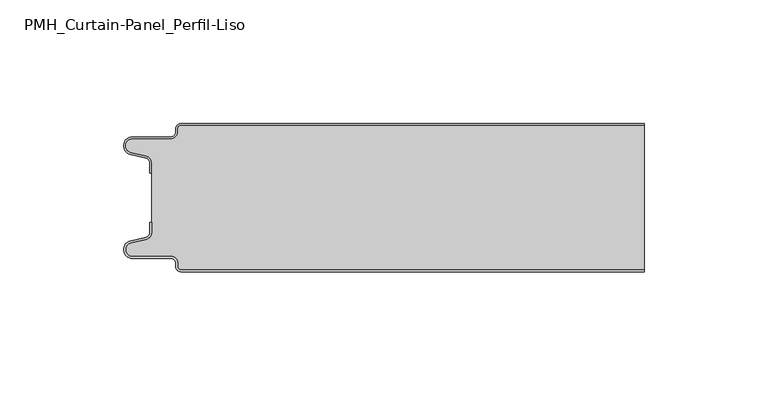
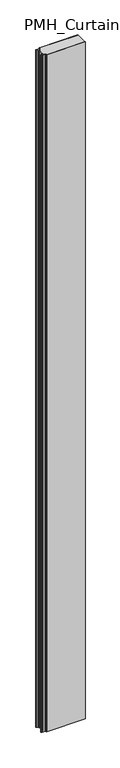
"""IFC4 building model written with IfcOpenShell, lengths in millimetres: plate geometry, PMH_Curtain-Panel_Perfil-Liso : ACH_PMH_Panel-Acústico-Sectorización_60M."""

import ifcopenshell
import ifcopenshell.guid

model = None  # the IFC model being written
_history = None  # IfcOwnerHistory: only IFC2X3 demands one
_inside = {}  # id of a spatial element -> (the spatial element, [elements in it])
_under = {}  # id of a project, library or spatial element -> (it, [spatial elements below it])
_declared = {}  # id of a project -> (the project, [libraries it declares])
_typed = {}  # id of a type object -> (the type object, [elements of that type])
_made_of = {}  # id of a material, layer set ... -> (it, [elements and type objects made of it])


def new_model(schema):
    """Start an empty IFC model of exactly this schema.

    Asked for "IFC4X3", IfcOpenShell would pick the latest addendum, in which some entities
    have other attributes; the version numbers below select the first issue.
    IFC2X3 requires an IfcOwnerHistory on every rooted entity: one is made here for all.
    """
    global model, _history
    if schema == "IFC4X3":
        model = ifcopenshell.file(schema_version=(4, 3, 0, 0))
    else:
        model = ifcopenshell.file(schema=schema)
    _inside.clear()
    _under.clear()
    _declared.clear()
    _typed.clear()
    _made_of.clear()
    _history = None
    if model.schema == "IFC2X3":
        org = make("IfcOrganization", Name="unknown")
        user = make(
            "IfcPersonAndOrganization",
            ThePerson=make("IfcPerson", FamilyName="unknown"),
            TheOrganization=org,
        )
        app = make(
            "IfcApplication",
            ApplicationDeveloper=org,
            Version="unknown",
            ApplicationFullName="unknown",
            ApplicationIdentifier="unknown",
        )
        _history = make(
            "IfcOwnerHistory",
            OwningUser=user,
            OwningApplication=app,
            ChangeAction="ADDED",
            CreationDate=0,
        )
    return model


def make(cls, **values):
    """One entity of the class cls with the attributes given. An attribute that is None is left unset."""
    return model.create_entity(
        cls, **{name: value for name, value in values.items() if value is not None}
    )


def rooted(cls, **values):
    """An entity with a GlobalId (a new one), such as an element, a storey or a relation."""
    return make(cls, GlobalId=ifcopenshell.guid.new(), OwnerHistory=_history, **values)


def si_unit(unit_type, name, prefix=None):
    """IfcSIUnit, for example si_unit("LENGTHUNIT", "METRE", prefix="MILLI")."""
    return make("IfcSIUnit", UnitType=unit_type, Prefix=prefix, Name=name)


def assignment(units):
    """IfcUnitAssignment: the units of a project."""
    return None if units is None else make("IfcUnitAssignment", Units=units)


def point(xyz):
    """IfcCartesianPoint."""
    return None if xyz is None else make("IfcCartesianPoint", Coordinates=xyz)


def direction(xyz):
    """IfcDirection."""
    return None if xyz is None else make("IfcDirection", DirectionRatios=xyz)


def frame(location, z_axis=None, x_axis=None):
    """IfcAxis2Placement3D, a coordinate frame: its origin and axes. An axis left out is left unset."""
    return make(
        "IfcAxis2Placement3D",
        Location=point(location),
        Axis=direction(z_axis),
        RefDirection=direction(x_axis),
    )


def frame_2d(location, x_axis=None):
    """IfcAxis2Placement2D, a coordinate frame in the plane: its origin and x axis."""
    return make(
        "IfcAxis2Placement2D", Location=point(location), RefDirection=direction(x_axis)
    )


def origin():
    """The frame at (0, 0, 0) with its axes left unset."""
    return frame((0.0, 0.0, 0.0))


def origin_with_axes():
    """The frame at (0, 0, 0) with the z axis (0, 0, 1) and the x axis (1, 0, 0) written out."""
    return frame((0.0, 0.0, 0.0), z_axis=(0.0, 0.0, 1.0), x_axis=(1.0, 0.0, 0.0))


def place(relative_to, where):
    """IfcLocalPlacement: puts the frame where relative to a parent placement (None: the world)."""
    return make(
        "IfcLocalPlacement", PlacementRelTo=relative_to, RelativePlacement=where
    )


def context(
    kind, dimensions, precision=None, world=None, true_north=None, identifier=None
):
    """IfcGeometricRepresentationContext, for example the 3D "Model" context."""
    return make(
        "IfcGeometricRepresentationContext",
        ContextIdentifier=identifier,
        ContextType=kind,
        CoordinateSpaceDimension=dimensions,
        Precision=precision,
        WorldCoordinateSystem=world,
        TrueNorth=true_north,
    )


def project(units=None, contexts=None):
    """IfcProject with its units and contexts."""
    return rooted(
        "IfcProject",
        Name="project",
        RepresentationContexts=contexts,
        UnitsInContext=assignment(units),
    )


def spatial(cls, under=None, at=None, **own):
    """A site, building, storey or space (cls), placed at a placement, below another one or the project."""
    s = rooted(cls, ObjectPlacement=at, **own)
    if under is not None:
        _under.setdefault(under.id(), (under, []))[1].append(s)
    return s


def polyline(points):
    """IfcPolyline through the points."""
    return make("IfcPolyline", Points=[point(p) for p in points])


def circle_curve(where, radius):
    """IfcCircle in the frame where."""
    return make("IfcCircle", Position=where, Radius=radius)


def trimmed(basis, trim1, trim2, sense, master):
    """IfcTrimmedCurve: the piece of a basis curve between two trims."""
    return make(
        "IfcTrimmedCurve",
        BasisCurve=basis,
        Trim1=trim1,
        Trim2=trim2,
        SenseAgreement=sense,
        MasterRepresentation=master,
    )


def segment(curve, same_sense, transition):
    """IfcCompositeCurveSegment."""
    return make(
        "IfcCompositeCurveSegment",
        Transition=transition,
        SameSense=same_sense,
        ParentCurve=curve,
    )


def composite_curve(segments, self_intersect=None):
    """IfcCompositeCurve: segments joined end to end."""
    return make("IfcCompositeCurve", Segments=segments, SelfIntersect=self_intersect)


def outline(outer, holes=None, kind="AREA"):
    """IfcArbitraryClosedProfileDef: a profile drawn as a closed curve; with holes, ...WithVoids."""
    if holes is None:
        return make("IfcArbitraryClosedProfileDef", ProfileType=kind, OuterCurve=outer)
    return make(
        "IfcArbitraryProfileDefWithVoids",
        ProfileType=kind,
        OuterCurve=outer,
        InnerCurves=holes,
    )


def extrude(swept, where, along, depth):
    """IfcExtrudedAreaSolid: the profile swept, set in the frame where, extruded along a direction by depth."""
    return make(
        "IfcExtrudedAreaSolid",
        SweptArea=swept,
        Position=where,
        ExtrudedDirection=direction(along),
        Depth=depth,
    )


def shape(context_of_items, identifier, shape_type, items):
    """IfcShapeRepresentation: the items that make up one representation, for example the "Body"."""
    return make(
        "IfcShapeRepresentation",
        ContextOfItems=context_of_items,
        RepresentationIdentifier=identifier,
        RepresentationType=shape_type,
        Items=items,
    )


def source(mapping_origin, context_of_items, identifier, shape_type, items):
    """IfcRepresentationMap: a shape defined once, which mapped items show again and again."""
    return make(
        "IfcRepresentationMap",
        MappingOrigin=mapping_origin,
        MappedRepresentation=shape(context_of_items, identifier, shape_type, items),
    )


def transform(
    local_origin,
    x_axis=None,
    y_axis=None,
    z_axis=None,
    scale=None,
    scale2=None,
    scale3=None,
    uniform=True,
):
    """IfcCartesianTransformationOperator3D, or its non-uniform kind. x_axis, y_axis, z_axis: its Axis1, 2, 3."""
    if uniform:
        return make(
            "IfcCartesianTransformationOperator3D",
            Axis1=direction(x_axis),
            Axis2=direction(y_axis),
            LocalOrigin=point(local_origin),
            Scale=scale,
            Axis3=direction(z_axis),
        )
    return make(
        "IfcCartesianTransformationOperator3DnonUniform",
        Axis1=direction(x_axis),
        Axis2=direction(y_axis),
        LocalOrigin=point(local_origin),
        Scale=scale,
        Axis3=direction(z_axis),
        Scale2=scale2,
        Scale3=scale3,
    )


def mapped(mapping_source, mapping_target):
    """IfcMappedItem: shows the shape of a source again, moved by a transform."""
    return make(
        "IfcMappedItem", MappingSource=mapping_source, MappingTarget=mapping_target
    )


def made_of(thing, what):
    """Note that an element or type object is made of a material, layer set ...; save() writes the relation."""
    if what is not None:
        _made_of.setdefault(what.id(), (what, []))[1].append(thing)
    return thing


def element(
    cls,
    number,
    at=None,
    inside=None,
    cuts=None,
    type_object=None,
    material=None,
    context=None,
    identifier="Body",
    shape_type=None,
    held_by="IfcProductDefinitionShape",
    body=None,
    shapes=None,
    **own,
):
    """One element of the class cls, such as IfcWall. Its Tag is "e" and its number.

    at: its placement. inside: the storey or other place that contains it. cuts: it is an
    opening in that element (IfcRelVoidsElement). A single representation is given by context,
    identifier, shape_type and body (its items); several are given by shapes. held_by: the class
    of the entity that holds the representations. save() writes the other relations.
    """
    e = rooted(cls, Tag="e%d" % number, ObjectPlacement=at, **own)
    if body is not None:
        shapes = [shape(context, identifier, shape_type, body)]
    if shapes is not None:
        e.Representation = make(held_by, Representations=shapes)
    if inside is not None:
        _inside.setdefault(inside.id(), (inside, []))[1].append(e)
    if cuts is not None:
        rooted(
            "IfcRelVoidsElement", RelatingBuildingElement=cuts, RelatedOpeningElement=e
        )
    if type_object is not None:
        _typed.setdefault(type_object.id(), (type_object, []))[1].append(e)
    return made_of(e, material)


def aggregate(whole, parts):
    """IfcRelAggregates: a whole, such as a stair, and the parts it consists of."""
    return rooted("IfcRelAggregates", RelatingObject=whole, RelatedObjects=parts)


def save(model, path):
    """Write the relations noted so far, then the file.

    IfcRelAggregates (storeys below a building ...), IfcRelContainedInSpatialStructure (elements
    in a storey), IfcRelDefinesByType, IfcRelAssociatesMaterial and IfcRelDeclares: one each for
    every whole, place, type object, material and project.
    """
    for whole, parts in _under.values():
        aggregate(whole, parts)
    for where, things in _inside.values():
        rooted(
            "IfcRelContainedInSpatialStructure",
            RelatedElements=things,
            RelatingStructure=where,
        )
    for kind, things in _typed.values():
        rooted("IfcRelDefinesByType", RelatedObjects=things, RelatingType=kind)
    for what, things in _made_of.values():
        rooted("IfcRelAssociatesMaterial", RelatedObjects=things, RelatingMaterial=what)
    for by, libraries in _declared.values():
        rooted("IfcRelDeclares", RelatingContext=by, RelatedDefinitions=libraries)
    model.write(path)


def pmh_curtain_panel_perfil_liso_33157659(model_context):
    return source(origin(), model_context, "Body", "SweptSolid", [
        extrude(outline(composite_curve([segment(polyline([(-87.4, 0.8), (100.0, 0.8), (100.0, 0.0), (-87.4, 0.0)]), True, "CONTINUOUS"), segment(trimmed(circle_curve(frame_2d((-87.4, 2.0)), 2.0), [point((-87.4, 0.0))], [point((-89.4, 2.0))], False, "CARTESIAN"), True, "CONTINUOUS"), segment(polyline([(-89.4, 2.0), (-89.4, 3.4)]), True, "CONTINUOUS"), segment(trimmed(circle_curve(frame_2d((-91.4, 3.4)), 2.0), [point((-89.4, 3.4))], [point((-91.4, 5.4))], True, "CARTESIAN"), True, "CONTINUOUS"), segment(polyline([(-91.4, 5.4), (-106.9, 5.4)]), True, "CONTINUOUS"), segment(trimmed(circle_curve(frame_2d((-106.9, 9.0)), 3.6), [point((-106.9, 5.4))], [point((-107.7098239, 12.5077322))], False, "CARTESIAN"), True, "CONTINUOUS"), segment(polyline([(-107.7098239, 12.5077322), (-101.5500979, 13.929817)]), True, "CONTINUOUS"), segment(trimmed(circle_curve(frame_2d((-102.0, 15.878557)), 2.0), [point((-101.5500979, 13.929817))], [point((-100.0, 15.878557))], True, "CARTESIAN"), True, "CONTINUOUS"), segment(polyline([(-100.0, 15.878557), (-100.0, 20.0), (-99.2, 20.0), (-99.2, 15.878557)]), True, "CONTINUOUS"), segment(trimmed(circle_curve(frame_2d((-102.0, 15.878557)), 2.8), [point((-99.2, 15.878557))], [point((-101.370137, 13.1503208))], False, "CARTESIAN"), True, "CONTINUOUS"), segment(polyline([(-101.370137, 13.1503208), (-107.529863, 11.728236)]), True, "CONTINUOUS"), segment(trimmed(circle_curve(frame_2d((-106.9, 9.0)), 2.8), [point((-107.529863, 11.728236))], [point((-106.9, 6.2))], True, "CARTESIAN"), True, "CONTINUOUS"), segment(polyline([(-106.9, 6.2), (-91.4, 6.2)]), True, "CONTINUOUS"), segment(trimmed(circle_curve(frame_2d((-91.4, 3.4)), 2.8), [point((-91.4, 6.2))], [point((-88.6, 3.4))], False, "CARTESIAN"), True, "CONTINUOUS"), segment(polyline([(-88.6, 3.4), (-88.6, 2.0)]), True, "CONTINUOUS"), segment(trimmed(circle_curve(frame_2d((-87.4, 2.0)), 1.2), [point((-88.6, 2.0))], [point((-87.4, 0.8))], True, "CARTESIAN"), True, "CONTINUOUS")], self_intersect=False)), origin_with_axes(), (0.0, 0.0, 1.0), 3500.0),
        extrude(outline(composite_curve([segment(trimmed(circle_curve(frame_2d((-102.0, 44.1214426)), 2.8), [point((-99.2, 44.1214426))], [point((-101.370137, 46.8496788))], True, "CARTESIAN"), True, "CONTINUOUS"), segment(polyline([(-101.370137, 46.8496788), (-107.5298631, 48.2717638)]), True, "CONTINUOUS"), segment(trimmed(circle_curve(frame_2d((-106.9, 51.0)), 2.8), [point((-107.5298631, 48.2717638))], [point((-106.9, 53.8))], False, "CARTESIAN"), True, "CONTINUOUS"), segment(polyline([(-106.9, 53.8), (-91.4000001, 53.8)]), True, "CONTINUOUS"), segment(trimmed(circle_curve(frame_2d((-91.4000001, 56.6)), 2.8), [point((-91.4000001, 53.8))], [point((-88.6000001, 56.6))], True, "CARTESIAN"), True, "CONTINUOUS"), segment(polyline([(-88.6000001, 56.6), (-88.6000001, 58.0)]), True, "CONTINUOUS"), segment(trimmed(circle_curve(frame_2d((-87.4000001, 58.0)), 1.2), [point((-88.6000001, 58.0))], [point((-87.4000001, 59.2))], False, "CARTESIAN"), True, "CONTINUOUS"), segment(polyline([(-87.4000001, 59.2), (100.0, 59.2), (100.0, 0.8), (-87.4000001, 0.8)]), True, "CONTINUOUS"), segment(trimmed(circle_curve(frame_2d((-87.4000001, 2.0)), 1.2), [point((-87.4000001, 0.8))], [point((-88.6000001, 2.0))], False, "CARTESIAN"), True, "CONTINUOUS"), segment(polyline([(-88.6000001, 2.0), (-88.6000001, 3.4)]), True, "CONTINUOUS"), segment(trimmed(circle_curve(frame_2d((-91.4000001, 3.4)), 2.8), [point((-88.6000001, 3.4))], [point((-91.4000001, 6.2))], True, "CARTESIAN"), True, "CONTINUOUS"), segment(polyline([(-91.4000001, 6.2), (-106.9, 6.2)]), True, "CONTINUOUS"), segment(trimmed(circle_curve(frame_2d((-106.9, 9.0)), 2.8), [point((-106.9, 6.2))], [point((-107.5298631, 11.7282362))], False, "CARTESIAN"), True, "CONTINUOUS"), segment(polyline([(-107.5298631, 11.7282362), (-101.370137, 13.1503212)]), True, "CONTINUOUS"), segment(trimmed(circle_curve(frame_2d((-102.0, 15.8785573)), 2.8), [point((-101.370137, 13.1503212))], [point((-99.2, 15.8785573))], True, "CARTESIAN"), True, "CONTINUOUS"), segment(polyline([(-99.2, 15.8785573), (-99.2, 44.1214426)]), True, "CONTINUOUS")], self_intersect=False)), origin_with_axes(), (0.0, 0.0, 1.0), 3500.0),
        extrude(outline(composite_curve([segment(polyline([(-87.4, 60.0), (100.0, 60.0), (100.0, 59.2), (-87.4, 59.2)]), True, "CONTINUOUS"), segment(trimmed(circle_curve(frame_2d((-87.4, 58.0)), 1.2), [point((-87.4, 59.2))], [point((-88.6, 58.0))], True, "CARTESIAN"), True, "CONTINUOUS"), segment(polyline([(-88.6, 58.0), (-88.6, 56.6)]), True, "CONTINUOUS"), segment(trimmed(circle_curve(frame_2d((-91.4, 56.6)), 2.8), [point((-88.6, 56.6))], [point((-91.4, 53.8))], False, "CARTESIAN"), True, "CONTINUOUS"), segment(polyline([(-91.4, 53.8), (-106.9, 53.8)]), True, "CONTINUOUS"), segment(trimmed(circle_curve(frame_2d((-106.9, 51.0)), 2.8), [point((-106.9, 53.8))], [point((-107.529863, 48.2717638))], True, "CARTESIAN"), True, "CONTINUOUS"), segment(polyline([(-107.529863, 48.2717638), (-101.370137, 46.849679)]), True, "CONTINUOUS"), segment(trimmed(circle_curve(frame_2d((-102.0, 44.121443)), 2.8), [point((-101.370137, 46.849679))], [point((-99.2, 44.121443))], False, "CARTESIAN"), True, "CONTINUOUS"), segment(polyline([(-99.2, 44.121443), (-99.2, 40.0), (-100.0, 40.0), (-100.0, 44.121443)]), True, "CONTINUOUS"), segment(trimmed(circle_curve(frame_2d((-102.0, 44.121443)), 2.0), [point((-100.0, 44.121443))], [point((-101.5500978, 46.0701831))], True, "CARTESIAN"), True, "CONTINUOUS"), segment(polyline([(-101.5500978, 46.0701831), (-107.7098239, 47.492268)]), True, "CONTINUOUS"), segment(trimmed(circle_curve(frame_2d((-106.9, 51.0)), 3.6), [point((-107.7098239, 47.492268))], [point((-106.9, 54.6))], False, "CARTESIAN"), True, "CONTINUOUS"), segment(polyline([(-106.9, 54.6), (-91.4, 54.6)]), True, "CONTINUOUS"), segment(trimmed(circle_curve(frame_2d((-91.4, 56.6)), 2.0), [point((-91.4, 54.6))], [point((-89.4, 56.6))], True, "CARTESIAN"), True, "CONTINUOUS"), segment(polyline([(-89.4, 56.6), (-89.4, 58.0)]), True, "CONTINUOUS"), segment(trimmed(circle_curve(frame_2d((-87.4, 58.0)), 2.0), [point((-89.4, 58.0))], [point((-87.4, 60.0))], False, "CARTESIAN"), True, "CONTINUOUS")], self_intersect=False)), origin_with_axes(), (0.0, 0.0, 1.0), 3500.0),
    ])


if __name__ == "__main__":
    model = new_model("IFC4")
    model_context = context("Model", 3, world=origin())
    ifc_project = project(units=[si_unit("LENGTHUNIT", "METRE", prefix="MILLI")], contexts=[model_context])
    site = spatial("IfcSite", under=ifc_project)
    building = spatial("IfcBuilding", under=site)
    placement = place(None, origin())
    pmh_curtain_panel_perfil_liso_shape = pmh_curtain_panel_perfil_liso_33157659(model_context)
    element("IfcPlate", 1, ObjectType="PMH_Curtain-Panel_Perfil-Liso : ACH_PMH_Panel-Acústico-Sectorización_60M", at=placement, inside=building, context=model_context, shape_type="MappedRepresentation", body=[
        mapped(pmh_curtain_panel_perfil_liso_shape, transform((0.0, 0.0, 0.0), x_axis=(1.0, 0.0, 0.0), y_axis=(0.0, 1.0, 0.0), z_axis=(0.0, 0.0, 1.0))),
    ])
    save(model, "model.ifc")
